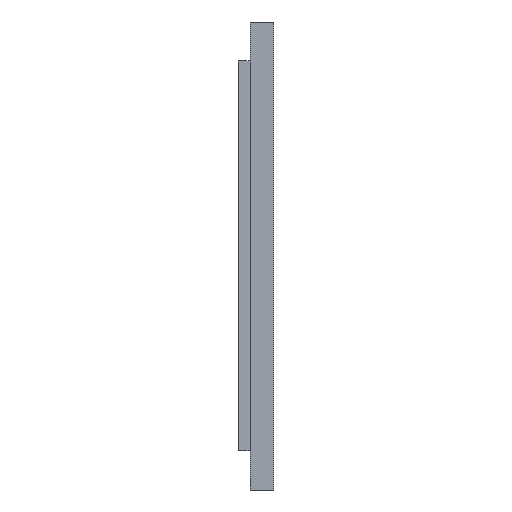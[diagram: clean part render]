
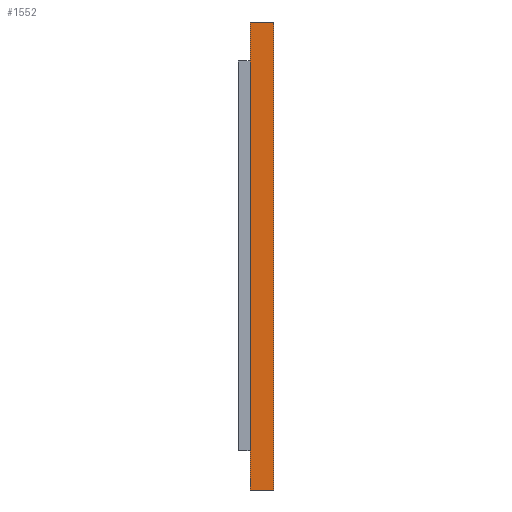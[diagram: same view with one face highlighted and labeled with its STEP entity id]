
A CAD part, left-side view. The second image highlights one B-rep face of the part: STEP entity #1552.
In plain terms, the highlighted planar face has unit normal (-1, 0, 0).
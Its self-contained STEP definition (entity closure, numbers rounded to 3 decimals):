
#212 = LINE ( 'NONE', #692, #2162 ) ;
#682 = FACE_OUTER_BOUND ( 'NONE', #1428, .T. ) ;
#692 = CARTESIAN_POINT ( 'NONE',  ( 159.833, 252.697, 299.139 ) ) ;
#995 = VERTEX_POINT ( 'NONE', #5366 ) ;
#1002 = VECTOR ( 'NONE', #4179, 1000. ) ;
#1107 = VECTOR ( 'NONE', #5717, 1000. ) ;
#1135 = CARTESIAN_POINT ( 'NONE',  ( 159.833, 261.697, 119.139 ) ) ;
#1177 = DIRECTION ( 'NONE',  ( 0., 0., -1. ) ) ;
#1428 = EDGE_LOOP ( 'NONE', ( #4494, #4752, #4280, #4132 ) ) ;
#1540 = DIRECTION ( 'NONE',  ( 0., -1., 0. ) ) ;
#1552 = ADVANCED_FACE ( 'NONE', ( #682 ), #3905, .F. ) ;
#1653 = VERTEX_POINT ( 'NONE', #2494 ) ;
#1914 = CARTESIAN_POINT ( 'NONE',  ( 159.833, 261.697, 119.139 ) ) ;
#2162 = VECTOR ( 'NONE', #4279, 1000. ) ;
#2267 = CARTESIAN_POINT ( 'NONE',  ( 159.833, 261.697, 299.139 ) ) ;
#2278 = VERTEX_POINT ( 'NONE', #3463 ) ;
#2494 = CARTESIAN_POINT ( 'NONE',  ( 159.833, 252.697, 299.139 ) ) ;
#2526 = LINE ( 'NONE', #1135, #5289 ) ;
#3463 = CARTESIAN_POINT ( 'NONE',  ( 159.833, 252.697, 119.139 ) ) ;
#3665 = VERTEX_POINT ( 'NONE', #1914 ) ;
#3874 = DIRECTION ( 'NONE',  ( 1., 0., 0. ) ) ;
#3905 = PLANE ( 'NONE',  #5430 ) ;
#3927 = CARTESIAN_POINT ( 'NONE',  ( 159.833, 261.697, 299.139 ) ) ;
#4032 = EDGE_CURVE ( 'NONE', #2278, #1653, #212, .T. ) ;
#4118 = LINE ( 'NONE', #2267, #1002 ) ;
#4132 = ORIENTED_EDGE ( 'NONE', *, *, #4352, .T. ) ;
#4179 = DIRECTION ( 'NONE',  ( 0., 0., 1. ) ) ;
#4279 = DIRECTION ( 'NONE',  ( 0., 0., 1. ) ) ;
#4280 = ORIENTED_EDGE ( 'NONE', *, *, #4531, .F. ) ;
#4352 = EDGE_CURVE ( 'NONE', #3665, #2278, #2526, .T. ) ;
#4493 = LINE ( 'NONE', #3927, #1107 ) ;
#4494 = ORIENTED_EDGE ( 'NONE', *, *, #4032, .T. ) ;
#4531 = EDGE_CURVE ( 'NONE', #3665, #995, #4118, .T. ) ;
#4752 = ORIENTED_EDGE ( 'NONE', *, *, #5619, .F. ) ;
#5234 = CARTESIAN_POINT ( 'NONE',  ( 159.833, 261.697, 299.139 ) ) ;
#5289 = VECTOR ( 'NONE', #1540, 1000. ) ;
#5366 = CARTESIAN_POINT ( 'NONE',  ( 159.833, 261.697, 299.139 ) ) ;
#5430 = AXIS2_PLACEMENT_3D ( 'NONE', #5234, #3874, #1177 ) ;
#5619 = EDGE_CURVE ( 'NONE', #995, #1653, #4493, .T. ) ;
#5717 = DIRECTION ( 'NONE',  ( 0., -1., 0. ) ) ;
